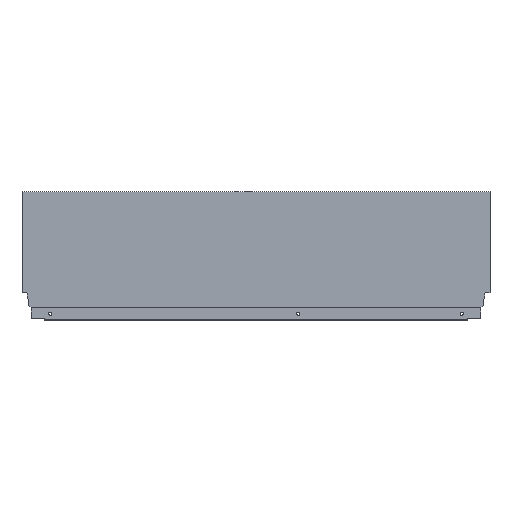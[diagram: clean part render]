
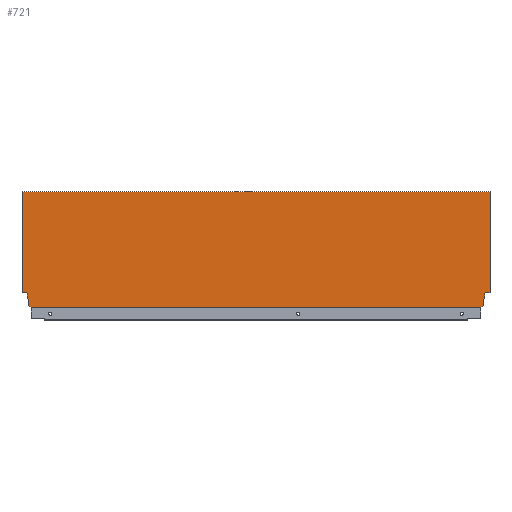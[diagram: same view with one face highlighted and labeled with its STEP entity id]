
A CAD part, top view. The second image highlights one B-rep face of the part: STEP entity #721.
In plain terms, the highlighted planar face has unit normal (0, 0, 1).
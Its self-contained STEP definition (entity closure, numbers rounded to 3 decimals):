
#106 = LINE ( 'NONE', #1032, #110 ) ;
#110 = VECTOR ( 'NONE', #979, 1000. ) ;
#116 = LINE ( 'NONE', #1445, #117 ) ;
#117 = VECTOR ( 'NONE', #961, 1000. ) ;
#133 = LINE ( 'NONE', #927, #170 ) ;
#159 = VECTOR ( 'NONE', #1405, 1000. ) ;
#165 = LINE ( 'NONE', #1407, #159 ) ;
#170 = VECTOR ( 'NONE', #936, 1000. ) ;
#172 = LINE ( 'NONE', #941, #173 ) ;
#173 = VECTOR ( 'NONE', #943, 1000. ) ;
#174 = LINE ( 'NONE', #948, #175 ) ;
#175 = VECTOR ( 'NONE', #950, 1000. ) ;
#176 = LINE ( 'NONE', #955, #177 ) ;
#177 = VECTOR ( 'NONE', #958, 1000. ) ;
#178 = LINE ( 'NONE', #1441, #179 ) ;
#179 = VECTOR ( 'NONE', #1444, 1000. ) ;
#180 = LINE ( 'NONE', #1438, #181 ) ;
#181 = VECTOR ( 'NONE', #1437, 1000. ) ;
#182 = LINE ( 'NONE', #1440, #183 ) ;
#183 = VECTOR ( 'NONE', #1439, 1000. ) ;
#184 = LINE ( 'NONE', #1434, #185 ) ;
#185 = VECTOR ( 'NONE', #1394, 1000. ) ;
#188 = LINE ( 'NONE', #1397, #189 ) ;
#189 = VECTOR ( 'NONE', #1396, 1000. ) ;
#190 = LINE ( 'NONE', #1400, #191 ) ;
#191 = VECTOR ( 'NONE', #1399, 1000. ) ;
#198 = LINE ( 'NONE', #1408, #199 ) ;
#199 = VECTOR ( 'NONE', #1414, 1000. ) ;
#258 = FACE_OUTER_BOUND ( 'NONE', #495, .T. ) ;
#361 = EDGE_CURVE ( 'NONE', #1480, #1470, #106, .T. ) ;
#365 = EDGE_CURVE ( 'NONE', #1454, #1482, #116, .T. ) ;
#395 = EDGE_CURVE ( 'NONE', #1494, #1479, #133, .T. ) ;
#396 = EDGE_CURVE ( 'NONE', #1479, #1517, #172, .T. ) ;
#397 = EDGE_CURVE ( 'NONE', #1517, #1472, #174, .T. ) ;
#398 = EDGE_CURVE ( 'NONE', #1475, #1491, #176, .T. ) ;
#399 = EDGE_CURVE ( 'NONE', #1472, #1476, #178, .T. ) ;
#400 = EDGE_CURVE ( 'NONE', #1491, #1470, #180, .T. ) ;
#401 = EDGE_CURVE ( 'NONE', #1476, #1475, #182, .T. ) ;
#402 = EDGE_CURVE ( 'NONE', #1484, #1454, #184, .T. ) ;
#404 = EDGE_CURVE ( 'NONE', #1482, #1493, #188, .T. ) ;
#405 = EDGE_CURVE ( 'NONE', #1480, #1473, #190, .T. ) ;
#408 = EDGE_CURVE ( 'NONE', #1494, #1493, #165, .T. ) ;
#410 = EDGE_CURVE ( 'NONE', #1473, #1484, #198, .T. ) ;
#469 = ORIENTED_EDGE ( 'NONE', *, *, #402, .F. ) ;
#470 = ORIENTED_EDGE ( 'NONE', *, *, #410, .F. ) ;
#471 = ORIENTED_EDGE ( 'NONE', *, *, #405, .F. ) ;
#495 = EDGE_LOOP ( 'NONE', ( #561, #562, #563, #469, #470, #471, #565, #566, #567, #568, #569, #570, #571, #572 ) ) ;
#561 = ORIENTED_EDGE ( 'NONE', *, *, #408, .T. ) ;
#562 = ORIENTED_EDGE ( 'NONE', *, *, #404, .F. ) ;
#563 = ORIENTED_EDGE ( 'NONE', *, *, #365, .F. ) ;
#565 = ORIENTED_EDGE ( 'NONE', *, *, #361, .T. ) ;
#566 = ORIENTED_EDGE ( 'NONE', *, *, #400, .F. ) ;
#567 = ORIENTED_EDGE ( 'NONE', *, *, #398, .F. ) ;
#568 = ORIENTED_EDGE ( 'NONE', *, *, #401, .F. ) ;
#569 = ORIENTED_EDGE ( 'NONE', *, *, #399, .F. ) ;
#570 = ORIENTED_EDGE ( 'NONE', *, *, #397, .F. ) ;
#571 = ORIENTED_EDGE ( 'NONE', *, *, #396, .F. ) ;
#572 = ORIENTED_EDGE ( 'NONE', *, *, #395, .F. ) ;
#670 = AXIS2_PLACEMENT_3D ( 'NONE', #1266, #1233, #1223 ) ;
#721 = ADVANCED_FACE ( 'NONE', ( #258 ), #946, .T. ) ;
#927 = CARTESIAN_POINT ( 'NONE',  ( -663., 164.7, 7.5 ) ) ;
#936 = DIRECTION ( 'NONE',  ( 1., 0., 0. ) ) ;
#941 = CARTESIAN_POINT ( 'NONE',  ( 0., 0., 7.5 ) ) ;
#943 = DIRECTION ( 'NONE',  ( 0., -1., 0. ) ) ;
#946 = PLANE ( 'NONE',  #670 ) ;
#948 = CARTESIAN_POINT ( 'NONE',  ( 0., 21.2, 7.5 ) ) ;
#950 = DIRECTION ( 'NONE',  ( -1., 0., 0. ) ) ;
#955 = CARTESIAN_POINT ( 'NONE',  ( -8.9, 2.64, 7.5 ) ) ;
#958 = DIRECTION ( 'NONE',  ( -0.94, -0.342, 0. ) ) ;
#961 = DIRECTION ( 'NONE',  ( -0.174, 0.985, 0. ) ) ;
#979 = DIRECTION ( 'NONE',  ( 1., 0., 0. ) ) ;
#1032 = CARTESIAN_POINT ( 'NONE',  ( -663., 0., 7.5 ) ) ;
#1173 = CARTESIAN_POINT ( 'NONE',  ( 0., 21.2, 7.5 ) ) ;
#1174 = CARTESIAN_POINT ( 'NONE',  ( -13.004, 1.146, 7.5 ) ) ;
#1194 = CARTESIAN_POINT ( 'NONE',  ( -649.996, 1.146, 7.5 ) ) ;
#1195 = CARTESIAN_POINT ( 'NONE',  ( -7.06, 21.2, 7.5 ) ) ;
#1197 = CARTESIAN_POINT ( 'NONE',  ( -13.004, 0., 7.5 ) ) ;
#1201 = CARTESIAN_POINT ( 'NONE',  ( -8.9, 10.765, 7.5 ) ) ;
#1202 = CARTESIAN_POINT ( 'NONE',  ( -8.9, 2.64, 7.5 ) ) ;
#1204 = CARTESIAN_POINT ( 'NONE',  ( -655.94, 21.2, 7.5 ) ) ;
#1206 = CARTESIAN_POINT ( 'NONE',  ( -649.996, 0., 7.5 ) ) ;
#1207 = CARTESIAN_POINT ( 'NONE',  ( 0., 164.7, 7.5 ) ) ;
#1208 = CARTESIAN_POINT ( 'NONE',  ( -654.1, 2.64, 7.5 ) ) ;
#1212 = CARTESIAN_POINT ( 'NONE',  ( -663., 21.2, 7.5 ) ) ;
#1216 = CARTESIAN_POINT ( 'NONE',  ( -663., 164.7, 7.5 ) ) ;
#1220 = CARTESIAN_POINT ( 'NONE',  ( -654.1, 10.765, 7.5 ) ) ;
#1223 = DIRECTION ( 'NONE',  ( 1., 0., 0. ) ) ;
#1233 = DIRECTION ( 'NONE',  ( 0., 0., 1. ) ) ;
#1266 = CARTESIAN_POINT ( 'NONE',  ( -663., 0., 7.5 ) ) ;
#1394 = DIRECTION ( 'NONE',  ( 0., 1., 0. ) ) ;
#1396 = DIRECTION ( 'NONE',  ( -1., 0., 0. ) ) ;
#1397 = CARTESIAN_POINT ( 'NONE',  ( -668., 21.2, 7.5 ) ) ;
#1399 = DIRECTION ( 'NONE',  ( 0., 1., 0. ) ) ;
#1400 = CARTESIAN_POINT ( 'NONE',  ( -649.996, 1.146, 7.5 ) ) ;
#1405 = DIRECTION ( 'NONE',  ( 0., -1., 0. ) ) ;
#1407 = CARTESIAN_POINT ( 'NONE',  ( -663., 0., 7.5 ) ) ;
#1408 = CARTESIAN_POINT ( 'NONE',  ( -654.1, 2.64, 7.5 ) ) ;
#1414 = DIRECTION ( 'NONE',  ( -0.94, 0.342, 0. ) ) ;
#1434 = CARTESIAN_POINT ( 'NONE',  ( -654.1, 10.765, 7.5 ) ) ;
#1437 = DIRECTION ( 'NONE',  ( 0., -1., 0. ) ) ;
#1438 = CARTESIAN_POINT ( 'NONE',  ( -13.004, 1.146, 7.5 ) ) ;
#1439 = DIRECTION ( 'NONE',  ( 0., -1., 0. ) ) ;
#1440 = CARTESIAN_POINT ( 'NONE',  ( -8.9, 10.765, 7.5 ) ) ;
#1441 = CARTESIAN_POINT ( 'NONE',  ( -7.06, 21.2, 7.5 ) ) ;
#1444 = DIRECTION ( 'NONE',  ( -0.174, -0.985, 0. ) ) ;
#1445 = CARTESIAN_POINT ( 'NONE',  ( -655.94, 21.2, 7.5 ) ) ;
#1454 = VERTEX_POINT ( 'NONE', #1220 ) ;
#1470 = VERTEX_POINT ( 'NONE', #1197 ) ;
#1472 = VERTEX_POINT ( 'NONE', #1195 ) ;
#1473 = VERTEX_POINT ( 'NONE', #1194 ) ;
#1475 = VERTEX_POINT ( 'NONE', #1202 ) ;
#1476 = VERTEX_POINT ( 'NONE', #1201 ) ;
#1479 = VERTEX_POINT ( 'NONE', #1207 ) ;
#1480 = VERTEX_POINT ( 'NONE', #1206 ) ;
#1482 = VERTEX_POINT ( 'NONE', #1204 ) ;
#1484 = VERTEX_POINT ( 'NONE', #1208 ) ;
#1491 = VERTEX_POINT ( 'NONE', #1174 ) ;
#1493 = VERTEX_POINT ( 'NONE', #1212 ) ;
#1494 = VERTEX_POINT ( 'NONE', #1216 ) ;
#1517 = VERTEX_POINT ( 'NONE', #1173 ) ;
